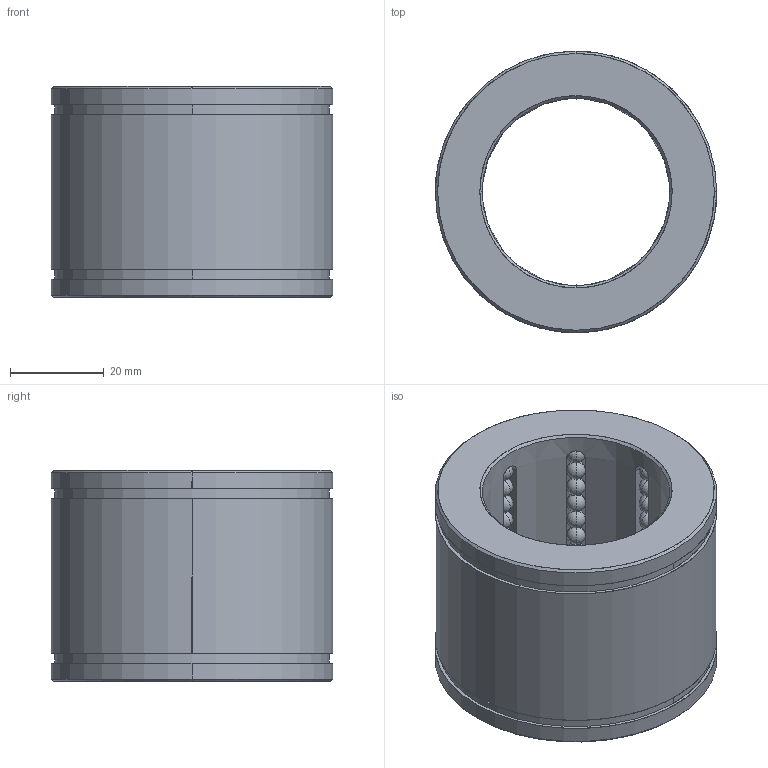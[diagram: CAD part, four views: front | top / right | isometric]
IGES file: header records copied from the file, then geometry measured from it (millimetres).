
Start section: START RECORD GO HERE.
Global section: file name: B8034045.igs; native system: DASSAULT SYSTEMES CATIA V5 R20 - www.3ds.com; preprocessor: CATIA Version 5 Release 20 ; author: Utente; organization: NB04-ASUS; date: 20200419.161323; units: millimetre
Bounding box: 60 x 60 x 45 mm (x, y, z)
Surface area: 23756.1 mm2 (no closed solid volume)
Topology: 0 solids, 0 shells, 362 faces, 1508 edges, 932 vertices
Faces by surface type: revolution 332, plane 30
